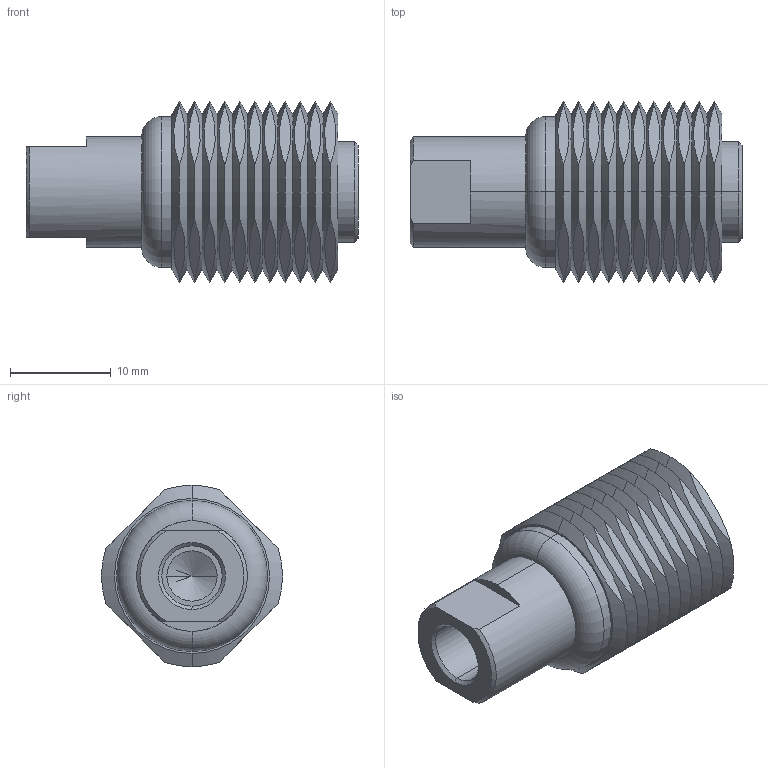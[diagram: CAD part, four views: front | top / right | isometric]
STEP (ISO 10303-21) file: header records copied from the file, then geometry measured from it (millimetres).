
FILE_DESCRIPTION (( 'STEP AP203' ), '1' );
FILE_NAME ('32790.W0181.step', '2013-07-26T15:10:42', ( 'Wixroyd' ), ( 'Wixroyd' ), 'SwSTEP 2.0', 'SolidWorks 2009', '' );
FILE_SCHEMA (( 'CONFIG_CONTROL_DESIGN' ));
Length unit declared in the file: millimetre
Products named in the file (3): Part1_32790.W0181; Part2_32790.W0181; 32790.W0181
Assembly tree (2 placements, depth 2):
  32790.W0181
    Part1_32790.W0181
    Part2_32790.W0181
Bounding box: 33 x 18 x 18 mm (x, y, z)
Volume: 4149.4 mm3; surface area: 4238 mm2
Topology: 2 solids, 2 shells, 132 faces, 320 edges, 194 vertices
Faces by surface type: cone 56, plane 56, cylinder 18, torus 2
Entity records: 4929 total; most frequent: CARTESIAN_POINT 1627, DIRECTION 642, ORIENTED_EDGE 632, EDGE_CURVE 316, AXIS2_PLACEMENT_3D 281, VERTEX_POINT 194, CIRCLE 144, EDGE_LOOP 140
